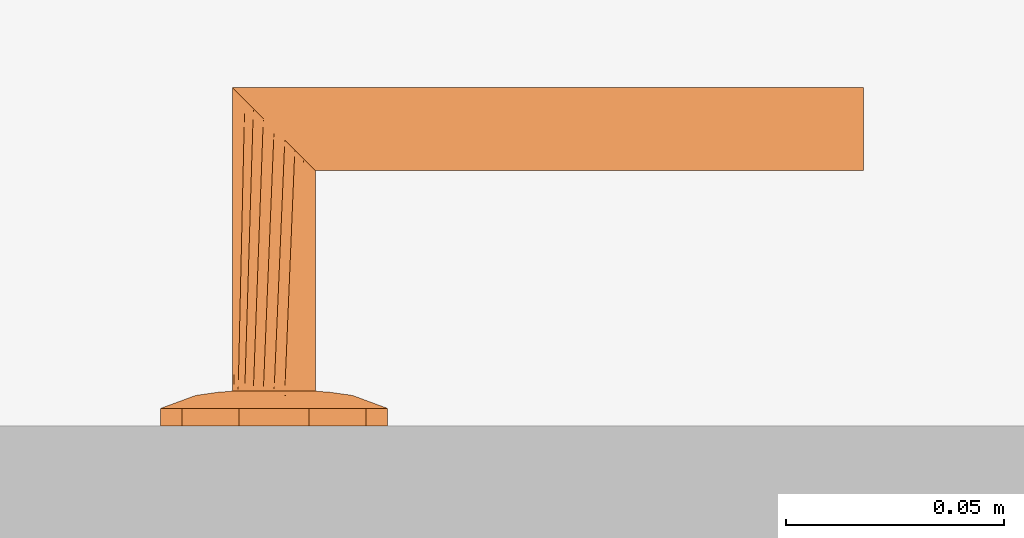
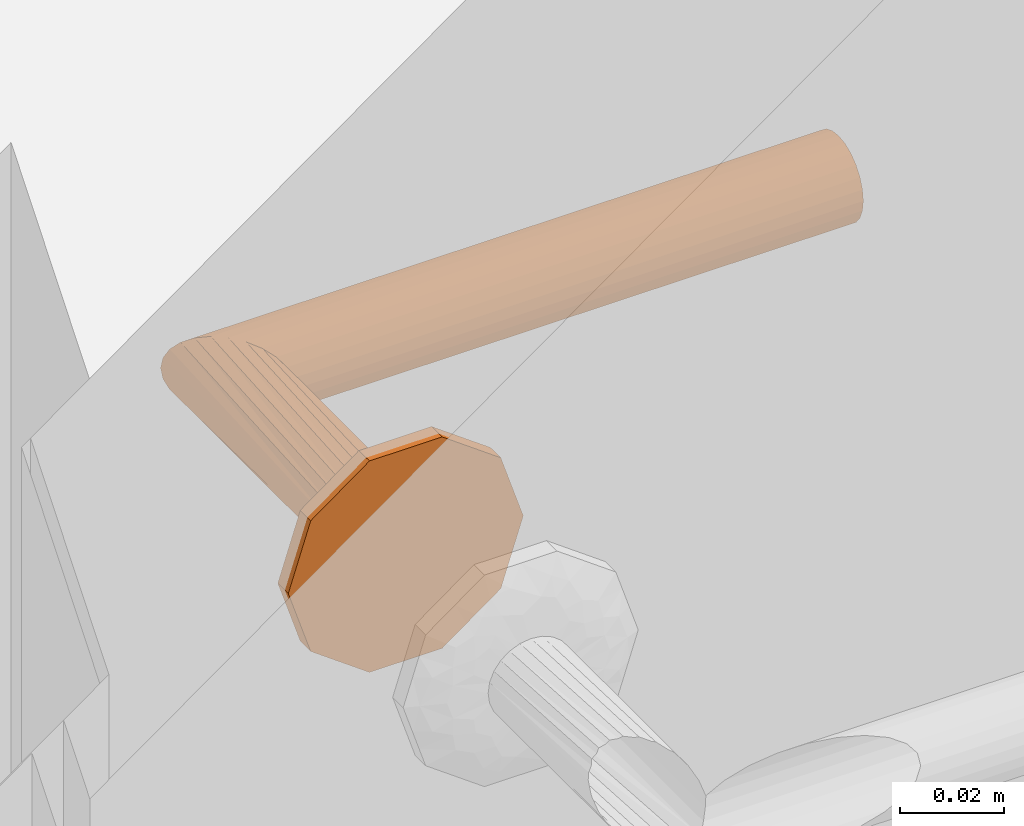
# One storey, part 52 of 55: 1 proxy.
"""IFC2X3 building model written with IfcOpenShell, lengths in millimetres."""

from ifc_helpers import new_model, entity, si_unit, converted_unit, direction, frame, origin, place, context, subcontext, project, spatial, faceted_brep, source, transform, mapped, material, type_object, type_shapes, element, save


model = new_model("IFC2X3")

# Units and contexts
model_context = context("Model", 3, precision=0.01, world=origin(), true_north=direction((6.123233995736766e-17, 1.0)))
plan_context = context("Plan", 3, precision=0.01, world=origin(), true_north=direction((6.123233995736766e-17, 1.0)))
body_context = subcontext(model_context, "Body", "Model", "MODEL_VIEW")
ifc_project = project(units=[si_unit("LENGTHUNIT", "METRE", prefix="MILLI"), converted_unit("PLANEANGLEUNIT", "DEGREE", entity("IfcPlaneAngleMeasure", 0.017453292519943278), si_unit("PLANEANGLEUNIT", "RADIAN"), dimensions=[0, 0, 0, 0, 0, 0, 0]), si_unit("AREAUNIT", "SQUARE_METRE")], contexts=[model_context, plan_context])

# Site, building, storey
site_placement = place(None, origin())
site = spatial("IfcSite", under=ifc_project, at=site_placement, Name="Default", CompositionType="ELEMENT")
building_placement = place(site_placement, origin())
building = spatial("IfcBuilding", under=site, at=building_placement, CompositionType="ELEMENT")
storey_placement = place(building_placement, origin())
storey = spatial("IfcBuildingStorey", under=building, at=storey_placement, Name="1K", CompositionType="ELEMENT", Elevation=0.0)

# Proxy
ifc_material = material(Name="<Unnamed>")
building_element_proxy_type = type_object("IfcBuildingElementProxyType", Name="Door-handle_Lever_ABLOY_INOXI_3-19ss-002_RT:Default", PredefinedType="NOTDEFINED", material=ifc_material)
shared_shape = source(origin(), body_context, "Body", "Brep", [
    faceted_brep([(0.0, 0.0, 0.0), (21.034441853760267, -15.282416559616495, 0.0), (14.534441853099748, -20.00494299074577, 0.0), (8.034441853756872, -24.72746942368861, 0.0), (0.0, -24.72746942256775, 0.0), (23.51722092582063, -7.6412082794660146, 0.0), (26.0, 0.0, 0.0), (-8.034441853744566, -24.727469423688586, 0.0), (-14.534441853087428, -20.00494299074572, 0.0), (-21.03444185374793, -15.282416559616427, 0.0), (-23.517220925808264, -7.641208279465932, 0.0), (-26.0, 0.0, 0.0), (-23.517220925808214, 7.641208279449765, 0.0), (23.517220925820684, 7.641208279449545, 0.0), (21.034441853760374, 15.282416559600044, 0.0), (14.53444185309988, 20.00494299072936, 0.0), (8.034441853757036, 24.72746942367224, 0.0), (-21.034441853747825, 15.282416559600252, 0.0), (-14.53444185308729, 20.004942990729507, 0.0), (-8.0344418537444, 24.72746942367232, 0.0), (0.0, 24.72746942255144, 0.0), (0.0, 0.0, 8.0), (4.7500000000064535, -8.227241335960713, 8.0), (5.937500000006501, -6.170431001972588, 8.0), (7.125000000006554, -4.113620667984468, 8.0), (8.312500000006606, -2.0568103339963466, 8.0), (9.500000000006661, 0.0, 8.0), (8.312500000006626, 2.056810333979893, 8.0), (2.3750000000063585, -8.227241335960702, 8.0), (0.0, -8.227241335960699, 8.0), (-2.3749999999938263, -8.227241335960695, 8.0), (-4.749999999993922, -8.227241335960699, 8.0), (-5.937499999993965, -6.170431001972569, 8.0), (-7.124999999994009, -4.113620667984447, 8.0), (-8.312499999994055, -2.056810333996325, 8.0), (-9.499999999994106, 0.0, 8.0), (7.125000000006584, 4.113620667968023, 8.0), (5.937500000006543, 6.170431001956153, 8.0), (4.750000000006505, 8.227241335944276, 8.0), (2.3750000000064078, 8.22724133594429, 8.0), (-8.31249999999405, 2.0568103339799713, 8.0), (-7.12499999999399, 4.113620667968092, 8.0), (-5.9374999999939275, 6.170431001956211, 8.0), (-4.74999999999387, 8.227241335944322, 8.0), (0.0, 8.227241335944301, 8.0), (-2.374999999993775, 8.227241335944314, 8.0), (-22.488765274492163, -10.806469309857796, 4.030771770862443), (-16.663919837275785, -7.932665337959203, 6.877259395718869), (-20.643071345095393, -6.292822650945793, 5.929480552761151), (-12.50457926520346, -5.179566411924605, 7.774932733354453), (-16.764060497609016, -3.820257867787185, 7.1747985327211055), (-9.071726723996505, -10.311606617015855, 7.7520782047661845), (-11.963426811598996, -8.625290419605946, 7.618343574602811), (-11.979136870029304, -13.678312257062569, 6.945778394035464), (5.7585542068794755, -20.96753300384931, 5.871476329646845), (0.0, -24.72746942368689, 4.030771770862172), (8.03444185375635, -24.727469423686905, 4.030771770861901), (16.66391982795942, -7.932665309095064, 6.877259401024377), (22.488765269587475, -10.806469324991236, 4.03077177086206), (20.64307133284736, -6.29282258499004, 5.929480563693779), (14.534441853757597, -20.004942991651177, 4.030771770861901), (9.499431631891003, -18.64368355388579, 6.154325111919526), (-15.783149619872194, -11.991003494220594, 6.50080018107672), (-21.034441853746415, -15.282416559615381, 4.030771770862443), (-14.53444185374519, -20.00494299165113, 4.030771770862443), (-23.012042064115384, 0.0, 5.135401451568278), (-23.943088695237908, -6.330522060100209, 4.030771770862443), (11.96342678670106, -8.62529049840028, 7.618343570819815), (12.504579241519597, -5.179566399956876, 7.774932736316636), (16.764060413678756, -3.8202578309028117, 7.17479855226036), (15.783149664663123, -11.991003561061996, 6.50080015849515), (17.985351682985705, 0.0, 6.993737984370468), (23.012042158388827, 0.0, 5.135401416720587), (8.661516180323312, -10.478936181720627, 7.768126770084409), (-8.03444185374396, -24.727469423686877, 4.030771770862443), (-3.3573143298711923, -21.197247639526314, 5.971427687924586), (-9.941915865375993, -17.061976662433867, 6.522757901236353), (-5.973257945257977, -16.430139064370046, 7.110979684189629), (-7.711266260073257, -12.760344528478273, 7.594456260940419), (11.979136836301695, -13.678312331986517, 6.945778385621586), (7.511307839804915, -13.358932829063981, 7.529187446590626), (5.953298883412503, -16.50608604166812, 7.096344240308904), (-1.5654593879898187, -15.307443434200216, 7.519134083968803), (-7.784980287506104, -20.476295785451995, 5.812837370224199), (2.8135289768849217, -17.76392260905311, 6.993737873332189), (-17.98535168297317, 0.0, 6.993737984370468), (-26.0, 0.0, 4.030771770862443), (-23.51722092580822, -7.641208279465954, 4.030771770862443), (23.943088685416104, -6.33052209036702, 4.030771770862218), (24.308823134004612, -5.204907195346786, 4.030771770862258), (26.0, 0.0, 4.030771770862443), (21.03444185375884, -15.282416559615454, 4.030771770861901), (22.617646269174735, -10.40981439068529, 4.030771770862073), (22.488765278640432, 10.806469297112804, 4.030771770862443), (16.66391984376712, 7.932665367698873, 6.877259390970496), (20.643071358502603, 6.292822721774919, 5.929480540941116), (12.504579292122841, 5.179566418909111, 7.774932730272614), (16.764060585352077, 3.8202579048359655, 7.174798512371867), (9.07172672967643, 10.31160659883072, 7.752078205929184), (11.963426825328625, 8.62529034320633, 7.618343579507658), (11.979136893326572, 13.67831220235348, 6.9457784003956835), (-5.758554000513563, 20.96753314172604, 5.8714763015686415), (0.0, 24.72746942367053, 4.030771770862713), (-8.03444185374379, 24.72746942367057, 4.030771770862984), (-16.663919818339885, 7.932665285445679, 6.877259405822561), (-22.48876526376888, 10.806469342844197, 4.030771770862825), (-20.643071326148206, 6.2928225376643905, 5.929480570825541), (-14.534441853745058, 20.004942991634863, 4.030771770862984), (-9.499431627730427, 18.643683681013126, 6.154325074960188), (15.783149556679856, 11.991003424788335, 6.5008002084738), (21.03444185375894, 15.282416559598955, 4.030771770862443), (14.534441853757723, 20.004942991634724, 4.030771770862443), (23.943088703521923, 6.330522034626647, 4.030771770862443), (-11.96342675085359, 8.625290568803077, 7.618343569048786), (-12.504579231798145, 5.179566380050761, 7.77493273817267), (-16.764060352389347, 3.820257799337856, 7.174798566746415), (-15.78314967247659, 11.991003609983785, 6.500800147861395), (-8.661516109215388, 10.478936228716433, 7.768126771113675), (8.034441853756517, 24.727469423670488, 4.030771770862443), (3.3573144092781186, 21.197247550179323, 5.971427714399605), (9.941915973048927, 17.061976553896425, 6.522757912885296), (5.9732581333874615, 16.430139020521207, 7.110979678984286), (7.711266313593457, 12.760344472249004, 7.5944562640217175), (-11.979136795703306, 13.678312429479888, 6.945778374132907), (-7.511307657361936, 13.358932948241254, 7.5291874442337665), (-5.9532988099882, 16.50608628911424, 7.096344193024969), (1.5654596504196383, 15.3074431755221, 7.519134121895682), (7.784980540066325, 20.476295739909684, 5.812837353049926), (-2.81352881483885, 17.76392263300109, 6.993737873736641), (23.51722092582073, 7.6412082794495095, 4.030771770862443), (-23.94308867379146, 6.330522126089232, 4.030771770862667), (-24.308823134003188, 5.20490719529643, 4.030771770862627), (-21.034441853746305, 15.282416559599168, 4.030771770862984), (-22.617646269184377, 10.409814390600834, 4.0307717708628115)], [[[0, 1, 2]], [[0, 2, 3]], [[0, 3, 4]], [[0, 5, 1]], [[0, 6, 5]], [[0, 4, 7]], [[0, 7, 8]], [[0, 8, 9]], [[0, 9, 10]], [[0, 10, 11]], [[0, 11, 12]], [[0, 13, 6]], [[0, 14, 13]], [[0, 15, 14]], [[0, 16, 15]], [[0, 12, 17]], [[0, 17, 18]], [[0, 18, 19]], [[0, 19, 20]], [[0, 20, 16]], [[21, 22, 23]], [[21, 23, 24]], [[21, 24, 25]], [[21, 25, 26]], [[21, 26, 27]], [[21, 28, 22]], [[21, 29, 28]], [[21, 30, 29]], [[21, 31, 30]], [[21, 32, 31]], [[21, 33, 32]], [[21, 34, 33]], [[21, 35, 34]], [[21, 27, 36]], [[21, 36, 37]], [[21, 37, 38]], [[21, 38, 39]], [[21, 40, 35]], [[21, 41, 40]], [[21, 42, 41]], [[21, 43, 42]], [[21, 39, 44]], [[21, 44, 45]], [[21, 45, 43]], [[46, 47, 48]], [[47, 49, 50]], [[49, 33, 34]], [[51, 52, 53]], [[49, 52, 33]], [[48, 47, 50]], [[54, 55, 56]], [[57, 58, 59]], [[56, 60, 61]], [[62, 63, 64]], [[65, 66, 48]], [[67, 57, 68]], [[68, 69, 25]], [[57, 67, 70]], [[69, 26, 25]], [[62, 53, 52]], [[71, 69, 72]], [[67, 23, 73]], [[74, 55, 75]], [[76, 77, 78]], [[79, 60, 70]], [[69, 59, 72]], [[80, 81, 61]], [[77, 30, 78]], [[82, 30, 77]], [[28, 80, 22]], [[77, 83, 75]], [[75, 82, 77]], [[55, 84, 75]], [[85, 50, 35]], [[24, 68, 25]], [[82, 84, 29]], [[84, 82, 75]], [[31, 78, 30]], [[82, 29, 30]], [[34, 35, 50]], [[52, 49, 47]], [[62, 52, 47]], [[34, 50, 49]], [[53, 78, 51]], [[32, 33, 52]], [[85, 65, 50]], [[66, 65, 86]], [[67, 68, 24]], [[77, 76, 83]], [[65, 48, 50]], [[63, 62, 46]], [[48, 66, 87, 46]], [[62, 47, 46]], [[69, 68, 57]], [[80, 73, 22]], [[70, 67, 79]], [[67, 24, 23]], [[72, 88, 89, 90]], [[69, 71, 26]], [[59, 69, 57]], [[61, 60, 79]], [[62, 64, 53]], [[91, 58, 70]], [[72, 59, 88]], [[57, 70, 58]], [[59, 58, 92]], [[80, 61, 79]], [[91, 70, 60]], [[61, 81, 54]], [[73, 80, 79]], [[28, 84, 81]], [[67, 73, 79]], [[29, 84, 28]], [[22, 73, 23]], [[51, 31, 32]], [[76, 78, 53]], [[53, 64, 76]], [[83, 64, 74]], [[64, 83, 76]], [[75, 83, 74]], [[31, 51, 78]], [[52, 51, 32]], [[28, 81, 80]], [[54, 81, 84]], [[55, 54, 84]], [[61, 54, 56]], [[93, 94, 95]], [[94, 96, 97]], [[96, 36, 27]], [[98, 99, 100]], [[96, 99, 36]], [[95, 94, 97]], [[101, 102, 103]], [[104, 105, 106]], [[103, 107, 108]], [[109, 110, 111]], [[72, 112, 95]], [[113, 104, 114]], [[114, 115, 40]], [[104, 113, 116]], [[115, 35, 40]], [[109, 100, 99]], [[85, 115, 65]], [[113, 42, 117]], [[118, 102, 119]], [[120, 121, 122]], [[123, 107, 116]], [[115, 106, 65]], [[124, 125, 108]], [[121, 39, 122]], [[126, 39, 121]], [[45, 124, 43]], [[121, 127, 119]], [[119, 126, 121]], [[102, 128, 119]], [[71, 97, 26]], [[41, 114, 40]], [[126, 128, 44]], [[128, 126, 119]], [[38, 122, 39]], [[126, 44, 39]], [[27, 26, 97]], [[99, 96, 94]], [[109, 99, 94]], [[27, 97, 96]], [[100, 122, 98]], [[37, 36, 99]], [[71, 72, 97]], [[112, 72, 90]], [[113, 114, 41]], [[121, 120, 127]], [[72, 95, 97]], [[110, 109, 93]], [[95, 112, 129, 93]], [[109, 94, 93]], [[115, 114, 104]], [[124, 117, 43]], [[116, 113, 123]], [[113, 41, 42]], [[65, 130, 131, 86]], [[115, 85, 35]], [[106, 115, 104]], [[108, 107, 123]], [[109, 111, 100]], [[132, 105, 116]], [[65, 106, 130]], [[104, 116, 105]], [[106, 105, 133]], [[124, 108, 123]], [[132, 116, 107]], [[108, 125, 101]], [[117, 124, 123]], [[45, 128, 125]], [[113, 117, 123]], [[44, 128, 45]], [[43, 117, 42]], [[98, 38, 37]], [[120, 122, 100]], [[100, 111, 120]], [[127, 111, 118]], [[111, 127, 120]], [[119, 127, 118]], [[38, 98, 122]], [[99, 98, 37]], [[45, 125, 124]], [[101, 125, 128]], [[102, 101, 128]], [[108, 101, 103]], [[7, 74, 64, 63, 9, 8]], [[10, 9, 63, 46, 87, 66, 86, 11]], [[6, 90, 89, 88, 92, 1, 5]], [[1, 58, 91]], [[74, 7, 4, 3, 56, 55]], [[60, 56, 3, 2, 1, 91]], [[1, 92, 58]], [[14, 110, 93, 129, 112, 90, 6, 13]], [[111, 110, 14, 15, 16, 118]], [[11, 86, 131, 130, 133, 17, 12]], [[17, 105, 132]], [[118, 16, 20, 19, 103, 102]], [[107, 103, 19, 18, 17, 132]], [[17, 133, 105]], [[59, 92, 88]], [[106, 133, 130]]]),
    faceted_brep([(4.7499999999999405, -8.22724133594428, 8.0), (2.4587809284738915, -9.176295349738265, 8.0), (0.0, -9.499999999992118, 8.0), (-2.4587809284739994, -9.176295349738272, 8.0), (-4.7500000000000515, -8.227241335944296, 8.0), (-6.717514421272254, -6.717514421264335, 8.0), (-8.227241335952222, -4.74999999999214, 8.0), (-9.176295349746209, -2.4587809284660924, 8.0), (-9.500000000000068, 0.0, 8.0), (-9.176295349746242, 2.458780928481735, 8.0), (-8.227241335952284, 4.750000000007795, 8.0), (-6.717514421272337, 6.717514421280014, 8.0), (-4.750000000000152, 8.227241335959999, 8.0), (-2.4587809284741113, 9.176295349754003, 8.0), (0.0, 9.500000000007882, 8.0), (2.4587809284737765, 9.176295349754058, 8.0), (4.7499999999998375, 8.227241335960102, 8.0), (6.717514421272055, 6.717514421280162, 8.0), (8.22724133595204, 4.75000000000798, 8.0), (9.17629534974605, 2.458780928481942, 8.0), (9.499999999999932, 0.0, 8.0), (9.17629534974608, -2.458780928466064, 8.0), (8.227241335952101, -4.749999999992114, 8.0), (6.717514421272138, -6.7175144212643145, 8.0), (-8.227241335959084, 4.7499999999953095, 59.772758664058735), (-6.717514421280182, 6.7175144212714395, 61.282485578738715), (-9.176295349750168, 2.458780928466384, 58.82370465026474), (-4.750000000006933, 8.227241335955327, 63.25000000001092), (-2.4587809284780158, 9.176295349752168, 65.54121907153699), (-9.500000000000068, 0.0, 58.50000000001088), (0.0, 9.50000000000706, 68.0), (4.750000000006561, 8.227241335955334, 72.75000000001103), (2.4587809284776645, 9.17629534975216, 70.45878092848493), (6.717514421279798, 6.7175144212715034, 74.71751442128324), (8.22724133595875, 4.749999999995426, 76.22724133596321), (9.17629534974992, 2.458780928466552, 77.17629534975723), (9.499999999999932, 0.0, 77.50000000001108), (9.176295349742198, -2.4587809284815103, 77.1762953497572), (8.227241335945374, -4.750000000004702, 76.22724133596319), (6.7175144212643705, -6.717514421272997, 74.7175144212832), (4.749999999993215, -8.227241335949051, 72.75000000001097), (2.4587809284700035, -9.17629534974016, 70.45878092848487), (0.0, -9.49999999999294, 68.0), (-2.4587809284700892, -9.176295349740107, 65.54121907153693), (-4.749999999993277, -8.227241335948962, 63.250000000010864), (-6.717514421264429, -6.717514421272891, 61.282485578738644), (-9.176295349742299, -2.458780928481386, 58.8237046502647), (-8.227241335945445, -4.750000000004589, 59.77275866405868), (-135.0, -9.176295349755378, 70.4587809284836), (-135.0, -8.227241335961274, 72.75000000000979), (-135.0, -6.717514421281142, 74.71751442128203), (-135.0, -4.750000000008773, 76.22724133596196), (-135.0, -2.4587809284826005, 77.17629534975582), (-135.0, 0.0, 77.5000000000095), (-135.0, 2.4587809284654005, 77.17629534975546), (-135.0, 4.749999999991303, 76.22724133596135), (-135.0, 6.717514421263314, 74.71751442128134), (-135.0, 8.227241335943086, 72.75000000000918), (-135.0, 9.17629534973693, 70.45878092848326), (-135.0, 9.499999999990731, 68.0), (-135.0, 9.17629534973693, 65.54121907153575), (-135.0, 8.227241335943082, 63.250000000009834), (-135.0, 6.717514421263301, 61.28248557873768), (-135.0, 4.749999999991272, 59.772758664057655), (-135.0, 2.458780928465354, 58.823704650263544), (-135.0, 0.0, 58.50000000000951), (-135.0, -2.458780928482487, 58.82370465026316), (-135.0, -4.750000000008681, 59.772758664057), (-135.0, -6.7175144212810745, 61.28248557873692), (-135.0, -8.227241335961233, 63.25000000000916), (-135.0, -9.176295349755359, 65.54121907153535), (-135.0, -9.500000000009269, 68.0)], [[[0, 1, 2, 3, 4, 5, 6, 7, 8, 9, 10, 11, 12, 13, 14, 15, 16, 17, 18, 19, 20, 21, 22, 23]], [[24, 25, 11, 10]], [[26, 24, 10, 9]], [[14, 27, 28]], [[13, 27, 14]], [[25, 27, 13]], [[29, 26, 9, 8]], [[12, 11, 25]], [[25, 13, 12]], [[28, 30, 15]], [[31, 17, 32]], [[33, 18, 31]], [[19, 34, 35]], [[33, 34, 19]], [[20, 19, 35, 36]], [[16, 15, 30]], [[14, 28, 15]], [[19, 18, 33]], [[17, 31, 18]], [[17, 16, 32]], [[30, 32, 16]], [[20, 36, 37, 21]], [[38, 21, 37]], [[22, 39, 40]], [[38, 39, 21]], [[23, 40, 41]], [[39, 22, 21]], [[1, 42, 43]], [[42, 1, 0]], [[23, 41, 0]], [[23, 22, 40]], [[41, 42, 0]], [[44, 45, 3]], [[43, 44, 2]], [[46, 29, 8, 7]], [[47, 46, 7, 6]], [[45, 47, 6, 5]], [[45, 4, 3]], [[3, 2, 44]], [[5, 4, 45]], [[43, 2, 1]], [[48, 49, 50, 51, 52, 53, 54, 55, 56, 57, 58, 59, 60, 61, 62, 63, 64, 65, 66, 67, 68, 69, 70, 71]], [[64, 63, 24, 26]], [[65, 64, 26, 29]], [[61, 60, 28, 27]], [[62, 61, 27, 25]], [[63, 62, 25, 24]], [[59, 30, 28, 60]], [[57, 56, 33, 31]], [[58, 57, 31, 32]], [[54, 53, 36, 35]], [[55, 54, 35, 34]], [[56, 55, 34, 33]], [[32, 30, 59, 58]], [[52, 51, 38, 37]], [[53, 52, 37, 36]], [[49, 48, 41, 40]], [[50, 49, 40, 39]], [[51, 50, 39, 38]], [[42, 41, 48, 71]], [[69, 68, 45, 44]], [[70, 69, 44, 43]], [[66, 65, 29, 46]], [[67, 66, 46, 47]], [[68, 67, 47, 45]], [[42, 71, 70, 43]]]),
])
type_shapes(building_element_proxy_type, [shared_shape])
proxy_placement = place(storey_placement, frame((14060.0, 4129.999959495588, 1000.0), z_axis=(0.0, 1.0, 0.0), x_axis=(-1.0, 0.0, 0.0)))
element("IfcBuildingElementProxy", 1, at=proxy_placement, inside=storey, type_object=building_element_proxy_type, material=ifc_material, Name="Door-handle_Lever_ABLOY_INOXI_3-19ss-002_RT:Default", ObjectType="Door-handle_Lever_ABLOY_INOXI_3-19ss-002_RT:Default", context=body_context, shape_type="MappedRepresentation", body=[
    mapped(shared_shape, transform((0.0, 0.0, 0.0), scale=1.0)),
])

save(model, "model.ifc")
